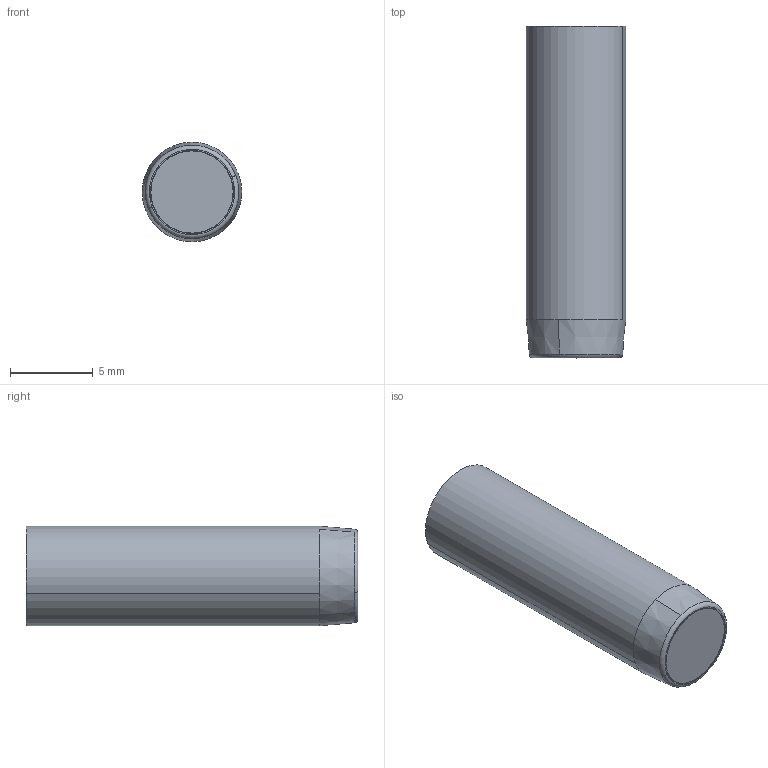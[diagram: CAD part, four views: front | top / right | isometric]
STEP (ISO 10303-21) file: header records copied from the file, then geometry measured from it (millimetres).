
FILE_DESCRIPTION (( 'STEP AP214' ), '1' );
FILE_NAME ('FA 063205-21.STEP', '2020-08-11T08:39:41', ( '' ), ( '' ), 'SwSTEP 2.0', 'SolidWorks 2019', '' );
FILE_SCHEMA (( 'AUTOMOTIVE_DESIGN' ));
Length unit declared in the file: millimetre
Products named in the file (6): DIA 3217SF; DFA 063200-3; DFA 063205-14-1; DFA 063200-2 - comprimido; FA 063205-21; DFA 063200-1
Assembly tree (5 placements, depth 2):
  FA 063205-21
    DFA 063205-14-1
    DFA 063200-1
    DIA 3217SF
    DFA 063200-3
    DFA 063200-2 - comprimido
Bounding box: 6 x 20 x 6 mm (x, y, z)
Volume: 470 mm3; surface area: 1124.8 mm2
Topology: 5 solids, 5 shells, 221 faces, 560 edges, 363 vertices
Faces by surface type: plane 95, bspline 63, cylinder 31, cone 22, torus 10
Entity records: 11480 total; most frequent: CARTESIAN_POINT 6273, ORIENTED_EDGE 1116, DIRECTION 842, EDGE_CURVE 558, VERTEX_POINT 363, LINE 290, VECTOR 290, AXIS2_PLACEMENT_3D 276
